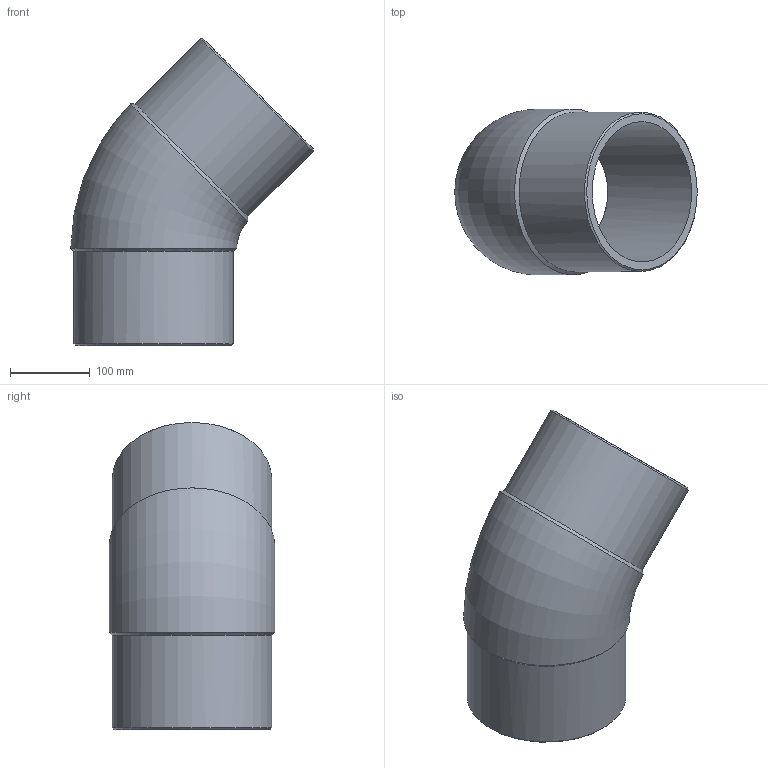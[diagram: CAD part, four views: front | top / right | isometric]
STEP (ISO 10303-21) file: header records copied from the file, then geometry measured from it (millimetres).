
FILE_DESCRIPTION(/* description */ ('Unknown'),/* implementation_level */ '2;1');
FILE_NAME(/* name */ 'G4P200B',/* time_stamp */ '2022-01-21T15:17:37+01:00',/* author */ ('Unknown'),/* organization */ ('Unknown'),/* preprocessor_version */ 'ST-DEVELOPER v18.1',/* originating_system */ 'Solid Edge',/* authorisation */ 'Unknown');
FILE_SCHEMA (('AUTOMOTIVE_DESIGN {1 0 10303 214 3 1 1}'));
Length unit declared in the file: millimetre
Products named in the file (1): G4P200B
Bounding box: 304.1 x 207.93 x 385.11 mm (x, y, z)
Volume: 2898415.6 mm3; surface area: 447259.1 mm2
Topology: 1 solids, 1 shells, 12 faces, 30 edges, 20 vertices
Faces by surface type: cone 4, cylinder 4, plane 2, torus 2
Full cylindrical faces by diameter (mm): 176.2 x2, 200 x2
Entity records: 462 total; most frequent: CARTESIAN_POINT 202, DIRECTION 48, ORIENTED_EDGE 34, AXIS2_PLACEMENT_3D 24, EDGE_LOOP 23, FACE_BOUND 23, EDGE_CURVE 17, VERTEX_POINT 16
